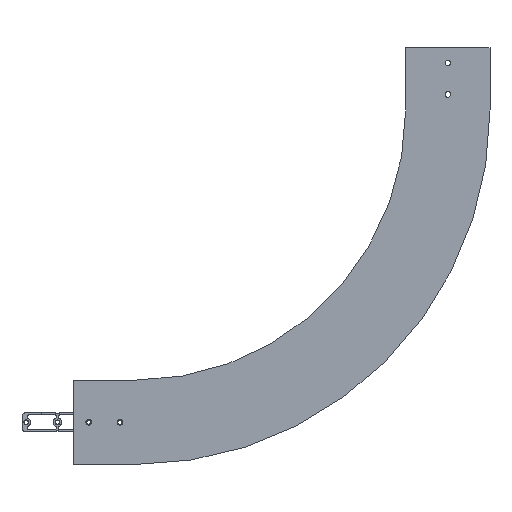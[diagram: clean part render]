
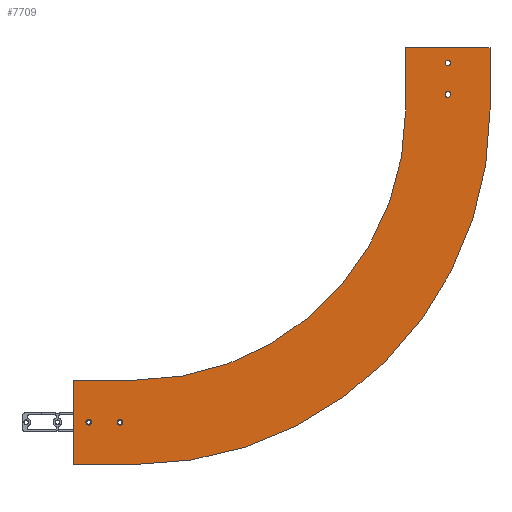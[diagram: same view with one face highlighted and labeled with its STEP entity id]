
A CAD part, left-side view. The second image highlights one B-rep face of the part: STEP entity #7709.
In plain terms, the highlighted planar face has unit normal (-1, 0, 0).
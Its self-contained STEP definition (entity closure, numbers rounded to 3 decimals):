
#161 = FACE_OUTER_BOUND ( 'NONE', #3690, .T. ) ;
#162 = FACE_BOUND ( 'NONE', #3689, .T. ) ;
#163 = FACE_BOUND ( 'NONE', #3688, .T. ) ;
#164 = FACE_BOUND ( 'NONE', #3682, .T. ) ;
#165 = FACE_BOUND ( 'NONE', #3676, .T. ) ;
#358 = VECTOR ( 'NONE', #4368, 1000. ) ;
#359 = LINE ( 'NONE', #4367, #358 ) ;
#364 = CIRCLE ( 'NONE', #5716, 567.5 ) ;
#373 = VECTOR ( 'NONE', #4347, 1000. ) ;
#374 = LINE ( 'NONE', #4346, #373 ) ;
#379 = VECTOR ( 'NONE', #4341, 1000. ) ;
#380 = LINE ( 'NONE', #4340, #379 ) ;
#490 = VECTOR ( 'NONE', #5409, 1000. ) ;
#491 = LINE ( 'NONE', #5408, #490 ) ;
#503 = CIRCLE ( 'NONE', #5703, 432.5 ) ;
#575 = CIRCLE ( 'NONE', #5697, 4.5 ) ;
#581 = CIRCLE ( 'NONE', #5695, 4.5 ) ;
#587 = CIRCLE ( 'NONE', #5693, 4.5 ) ;
#593 = CIRCLE ( 'NONE', #5691, 4.5 ) ;
#604 = EDGE_CURVE ( 'NONE', #1020, #873, #2899, .T. ) ;
#619 = EDGE_CURVE ( 'NONE', #812, #967, #2876, .T. ) ;
#741 = VERTEX_POINT ( 'NONE', #1098 ) ;
#769 = VERTEX_POINT ( 'NONE', #1070 ) ;
#786 = VERTEX_POINT ( 'NONE', #1053 ) ;
#812 = VERTEX_POINT ( 'NONE', #6910 ) ;
#815 = VERTEX_POINT ( 'NONE', #6915 ) ;
#817 = VERTEX_POINT ( 'NONE', #6916 ) ;
#869 = VERTEX_POINT ( 'NONE', #6726 ) ;
#872 = VERTEX_POINT ( 'NONE', #6731 ) ;
#873 = VERTEX_POINT ( 'NONE', #6730 ) ;
#874 = VERTEX_POINT ( 'NONE', #6733 ) ;
#880 = VERTEX_POINT ( 'NONE', #6739 ) ;
#885 = VERTEX_POINT ( 'NONE', #6742 ) ;
#967 = VERTEX_POINT ( 'NONE', #6882 ) ;
#976 = VERTEX_POINT ( 'NONE', #6890 ) ;
#1020 = VERTEX_POINT ( 'NONE', #6960 ) ;
#1023 = VERTEX_POINT ( 'NONE', #6961 ) ;
#1053 = CARTESIAN_POINT ( 'NONE',  ( -59., 600., -532.5 ) ) ;
#1070 = CARTESIAN_POINT ( 'NONE',  ( -59., -67.5, -100. ) ) ;
#1098 = CARTESIAN_POINT ( 'NONE',  ( -59., 600., -667.5 ) ) ;
#1204 = DIRECTION ( 'NONE',  ( 0., -1., 0. ) ) ;
#1205 = CARTESIAN_POINT ( 'NONE',  ( -59., -67.5, 0. ) ) ;
#1239 = DIRECTION ( 'NONE',  ( 0., 0., 1. ) ) ;
#1240 = DIRECTION ( 'NONE',  ( -1., 0., 0. ) ) ;
#1241 = CARTESIAN_POINT ( 'NONE',  ( -59., 575., -600. ) ) ;
#1508 = VECTOR ( 'NONE', #5201, 1000. ) ;
#1509 = LINE ( 'NONE', #5200, #1508 ) ;
#1525 = CIRCLE ( 'NONE', #5672, 4.5 ) ;
#1526 = CIRCLE ( 'NONE', #5671, 4.5 ) ;
#1528 = CIRCLE ( 'NONE', #5669, 4.5 ) ;
#2875 = VECTOR ( 'NONE', #1204, 1000. ) ;
#2876 = LINE ( 'NONE', #1205, #2875 ) ;
#2899 = CIRCLE ( 'NONE', #6535, 4.5 ) ;
#3429 = ORIENTED_EDGE ( 'NONE', *, *, #7515, .F. ) ;
#3463 = ORIENTED_EDGE ( 'NONE', *, *, #604, .F. ) ;
#3499 = ORIENTED_EDGE ( 'NONE', *, *, #6645, .F. ) ;
#3510 = ORIENTED_EDGE ( 'NONE', *, *, #7519, .T. ) ;
#3516 = ORIENTED_EDGE ( 'NONE', *, *, #6648, .F. ) ;
#3522 = ORIENTED_EDGE ( 'NONE', *, *, #6659, .F. ) ;
#3552 = ORIENTED_EDGE ( 'NONE', *, *, #7510, .F. ) ;
#3554 = ORIENTED_EDGE ( 'NONE', *, *, #7400, .F. ) ;
#3560 = ORIENTED_EDGE ( 'NONE', *, *, #619, .F. ) ;
#3580 = ORIENTED_EDGE ( 'NONE', *, *, #7507, .T. ) ;
#3582 = ORIENTED_EDGE ( 'NONE', *, *, #6647, .F. ) ;
#3584 = ORIENTED_EDGE ( 'NONE', *, *, #7446, .T. ) ;
#3586 = ORIENTED_EDGE ( 'NONE', *, *, #7392, .F. ) ;
#3610 = ORIENTED_EDGE ( 'NONE', *, *, #7388, .F. ) ;
#3617 = ORIENTED_EDGE ( 'NONE', *, *, #7396, .F. ) ;
#3676 = EDGE_LOOP ( 'NONE', ( #3516, #3586 ) ) ;
#3682 = EDGE_LOOP ( 'NONE', ( #3499, #3610 ) ) ;
#3688 = EDGE_LOOP ( 'NONE', ( #3582, #3617 ) ) ;
#3689 = EDGE_LOOP ( 'NONE', ( #3463, #3554 ) ) ;
#3690 = EDGE_LOOP ( 'NONE', ( #3560, #3522, #3728, #3584, #3580, #3552, #3429, #3510 ) ) ;
#3728 = ORIENTED_EDGE ( 'NONE', *, *, #7439, .T. ) ;
#4340 = CARTESIAN_POINT ( 'NONE',  ( -59., 600., -667.5 ) ) ;
#4341 = DIRECTION ( 'NONE',  ( 0., 0., -1. ) ) ;
#4346 = CARTESIAN_POINT ( 'NONE',  ( -59., 500., -667.5 ) ) ;
#4347 = DIRECTION ( 'NONE',  ( 0., 1., 0. ) ) ;
#4357 = CARTESIAN_POINT ( 'NONE',  ( -59., 500., -100. ) ) ;
#4358 = DIRECTION ( 'NONE',  ( 1., 0., 0. ) ) ;
#4359 = DIRECTION ( 'NONE',  ( 0., 0., -1. ) ) ;
#4367 = CARTESIAN_POINT ( 'NONE',  ( -59., -67.5, -100. ) ) ;
#4368 = DIRECTION ( 'NONE',  ( 0., 0., 1. ) ) ;
#4723 = PLANE ( 'NONE',  #5811 ) ;
#4724 = CARTESIAN_POINT ( 'NONE',  ( -59., -67.5, -100. ) ) ;
#4725 = DIRECTION ( 'NONE',  ( -1., 0., 0. ) ) ;
#4726 = DIRECTION ( 'NONE',  ( 0., 0., 1. ) ) ;
#5163 = CARTESIAN_POINT ( 'NONE',  ( -59., 0., -25. ) ) ;
#5164 = DIRECTION ( 'NONE',  ( -1., 0., 0. ) ) ;
#5165 = DIRECTION ( 'NONE',  ( 0., 0., 1. ) ) ;
#5169 = CARTESIAN_POINT ( 'NONE',  ( -59., 525., -600. ) ) ;
#5170 = DIRECTION ( 'NONE',  ( -1., 0., 0. ) ) ;
#5171 = DIRECTION ( 'NONE',  ( 0., 0., 1. ) ) ;
#5172 = CARTESIAN_POINT ( 'NONE',  ( -59., 0., -75. ) ) ;
#5173 = DIRECTION ( 'NONE',  ( -1., 0., 0. ) ) ;
#5174 = DIRECTION ( 'NONE',  ( 0., 0., 1. ) ) ;
#5200 = CARTESIAN_POINT ( 'NONE',  ( -59., 67.5, -100. ) ) ;
#5201 = DIRECTION ( 'NONE',  ( 0., 0., 1. ) ) ;
#5277 = CARTESIAN_POINT ( 'NONE',  ( -59., 0., -25. ) ) ;
#5278 = DIRECTION ( 'NONE',  ( -1., 0., 0. ) ) ;
#5279 = DIRECTION ( 'NONE',  ( 0., 0., 1. ) ) ;
#5287 = CARTESIAN_POINT ( 'NONE',  ( -59., 0., -75. ) ) ;
#5288 = DIRECTION ( 'NONE',  ( -1., 0., 0. ) ) ;
#5289 = DIRECTION ( 'NONE',  ( 0., 0., 1. ) ) ;
#5297 = CARTESIAN_POINT ( 'NONE',  ( -59., 525., -600. ) ) ;
#5298 = DIRECTION ( 'NONE',  ( -1., 0., 0. ) ) ;
#5299 = DIRECTION ( 'NONE',  ( 0., 0., 1. ) ) ;
#5307 = CARTESIAN_POINT ( 'NONE',  ( -59., 575., -600. ) ) ;
#5308 = DIRECTION ( 'NONE',  ( -1., 0., 0. ) ) ;
#5309 = DIRECTION ( 'NONE',  ( 0., 0., 1. ) ) ;
#5393 = CARTESIAN_POINT ( 'NONE',  ( -59., 500., -100. ) ) ;
#5394 = DIRECTION ( 'NONE',  ( 1., 0., 0. ) ) ;
#5395 = DIRECTION ( 'NONE',  ( 0., 0., -1. ) ) ;
#5408 = CARTESIAN_POINT ( 'NONE',  ( -59., 500., -532.5 ) ) ;
#5409 = DIRECTION ( 'NONE',  ( 0., 1., 0. ) ) ;
#5669 = AXIS2_PLACEMENT_3D ( 'NONE', #5163, #5164, #5165 ) ;
#5671 = AXIS2_PLACEMENT_3D ( 'NONE', #5169, #5170, #5171 ) ;
#5672 = AXIS2_PLACEMENT_3D ( 'NONE', #5172, #5173, #5174 ) ;
#5691 = AXIS2_PLACEMENT_3D ( 'NONE', #5277, #5278, #5279 ) ;
#5693 = AXIS2_PLACEMENT_3D ( 'NONE', #5287, #5288, #5289 ) ;
#5695 = AXIS2_PLACEMENT_3D ( 'NONE', #5297, #5298, #5299 ) ;
#5697 = AXIS2_PLACEMENT_3D ( 'NONE', #5307, #5308, #5309 ) ;
#5703 = AXIS2_PLACEMENT_3D ( 'NONE', #5393, #5394, #5395 ) ;
#5716 = AXIS2_PLACEMENT_3D ( 'NONE', #4357, #4358, #4359 ) ;
#5811 = AXIS2_PLACEMENT_3D ( 'NONE', #4724, #4725, #4726 ) ;
#6535 = AXIS2_PLACEMENT_3D ( 'NONE', #1241, #1240, #1239 ) ;
#6645 = EDGE_CURVE ( 'NONE', #872, #885, #1528, .T. ) ;
#6647 = EDGE_CURVE ( 'NONE', #869, #874, #1526, .T. ) ;
#6648 = EDGE_CURVE ( 'NONE', #880, #1023, #1525, .T. ) ;
#6659 = EDGE_CURVE ( 'NONE', #815, #812, #1509, .T. ) ;
#6726 = CARTESIAN_POINT ( 'NONE',  ( -59., 525., -595.5 ) ) ;
#6730 = CARTESIAN_POINT ( 'NONE',  ( -59., 575., -604.5 ) ) ;
#6731 = CARTESIAN_POINT ( 'NONE',  ( -59., 0., -20.5 ) ) ;
#6733 = CARTESIAN_POINT ( 'NONE',  ( -59., 525., -604.5 ) ) ;
#6739 = CARTESIAN_POINT ( 'NONE',  ( -59., 0., -70.5 ) ) ;
#6742 = CARTESIAN_POINT ( 'NONE',  ( -59., 0., -29.5 ) ) ;
#6882 = CARTESIAN_POINT ( 'NONE',  ( -59., -67.5, 0. ) ) ;
#6890 = CARTESIAN_POINT ( 'NONE',  ( -59., 500., -667.5 ) ) ;
#6910 = CARTESIAN_POINT ( 'NONE',  ( -59., 67.5, 0. ) ) ;
#6915 = CARTESIAN_POINT ( 'NONE',  ( -59., 67.5, -100. ) ) ;
#6916 = CARTESIAN_POINT ( 'NONE',  ( -59., 500., -532.5 ) ) ;
#6960 = CARTESIAN_POINT ( 'NONE',  ( -59., 575., -595.5 ) ) ;
#6961 = CARTESIAN_POINT ( 'NONE',  ( -59., 0., -79.5 ) ) ;
#7388 = EDGE_CURVE ( 'NONE', #885, #872, #593, .T. ) ;
#7392 = EDGE_CURVE ( 'NONE', #1023, #880, #587, .T. ) ;
#7396 = EDGE_CURVE ( 'NONE', #874, #869, #581, .T. ) ;
#7400 = EDGE_CURVE ( 'NONE', #873, #1020, #575, .T. ) ;
#7439 = EDGE_CURVE ( 'NONE', #815, #817, #503, .T. ) ;
#7446 = EDGE_CURVE ( 'NONE', #817, #786, #491, .T. ) ;
#7507 = EDGE_CURVE ( 'NONE', #786, #741, #380, .T. ) ;
#7510 = EDGE_CURVE ( 'NONE', #976, #741, #374, .T. ) ;
#7515 = EDGE_CURVE ( 'NONE', #769, #976, #364, .T. ) ;
#7519 = EDGE_CURVE ( 'NONE', #769, #967, #359, .T. ) ;
#7709 = ADVANCED_FACE ( 'NONE', ( #165, #164, #163, #162, #161 ), #4723, .T. ) ;
